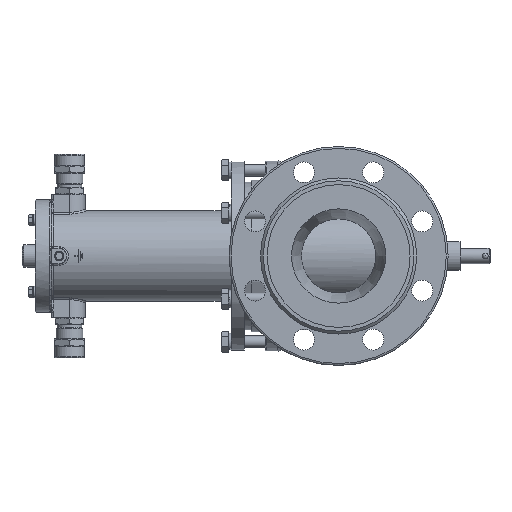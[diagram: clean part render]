
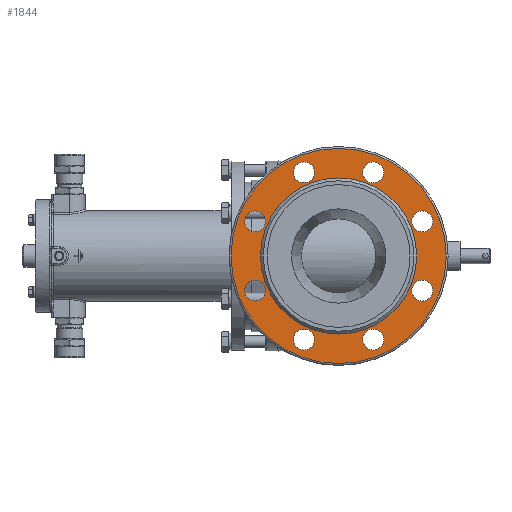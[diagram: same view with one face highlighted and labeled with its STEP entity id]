
A CAD part, left-side view. The second image highlights one B-rep face of the part: STEP entity #1844.
In plain terms, the highlighted planar face has unit normal (-1, 0, 0).
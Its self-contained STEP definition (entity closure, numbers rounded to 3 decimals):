
#1844=ADVANCED_FACE('',(#20907,#20909,#20911,#20913,#20915,#20917,#20919,#20921,
#20923,#20925),#20927,.T.);
#20907=FACE_BOUND('',#20908,.T.);
#20908=EDGE_LOOP('',(#31750));
#20909=FACE_BOUND('',#20910,.T.);
#20910=EDGE_LOOP('',(#31751));
#20911=FACE_BOUND('',#20912,.T.);
#20912=EDGE_LOOP('',(#31752));
#20913=FACE_BOUND('',#20914,.T.);
#20914=EDGE_LOOP('',(#31753));
#20915=FACE_BOUND('',#20916,.T.);
#20916=EDGE_LOOP('',(#31754));
#20917=FACE_BOUND('',#20918,.T.);
#20918=EDGE_LOOP('',(#31755));
#20919=FACE_BOUND('',#20920,.T.);
#20920=EDGE_LOOP('',(#31756));
#20921=FACE_BOUND('',#20922,.T.);
#20922=EDGE_LOOP('',(#31757));
#20923=FACE_BOUND('',#20924,.T.);
#20924=EDGE_LOOP('',(#31758));
#20925=FACE_OUTER_BOUND('',#20926,.T.);
#20926=EDGE_LOOP('',(#31759));
#20927=PLANE('',#20928);
#20928=AXIS2_PLACEMENT_3D('',#20929,#20930,#20931);
#20929=CARTESIAN_POINT('',(-151.,0.,0.));
#20930=DIRECTION('',(-1.,0.,0.));
#20931=DIRECTION('',(0.,1.,0.));
#31750=ORIENTED_EDGE('',*,*,#39316,.F.);
#31751=ORIENTED_EDGE('',*,*,#39285,.T.);
#31752=ORIENTED_EDGE('',*,*,#39283,.T.);
#31753=ORIENTED_EDGE('',*,*,#39281,.T.);
#31754=ORIENTED_EDGE('',*,*,#39279,.T.);
#31755=ORIENTED_EDGE('',*,*,#39277,.T.);
#31756=ORIENTED_EDGE('',*,*,#39275,.T.);
#31757=ORIENTED_EDGE('',*,*,#39273,.T.);
#31758=ORIENTED_EDGE('',*,*,#39271,.T.);
#31759=ORIENTED_EDGE('',*,*,#39317,.T.);
#39271=EDGE_CURVE('',#47307,#47307,#47309,.F.);
#39273=EDGE_CURVE('',#47310,#47310,#47312,.F.);
#39275=EDGE_CURVE('',#47313,#47313,#47315,.F.);
#39277=EDGE_CURVE('',#47316,#47316,#47318,.F.);
#39279=EDGE_CURVE('',#47319,#47319,#47321,.F.);
#39281=EDGE_CURVE('',#47322,#47322,#47324,.F.);
#39283=EDGE_CURVE('',#47325,#47325,#47327,.F.);
#39285=EDGE_CURVE('',#47328,#47328,#47330,.F.);
#39316=EDGE_CURVE('',#47385,#47385,#47386,.T.);
#39317=EDGE_CURVE('',#47387,#47387,#47388,.T.);
#47307=VERTEX_POINT('',#75715);
#47309=CIRCLE('',#75719,11.);
#47310=VERTEX_POINT('',#75723);
#47312=CIRCLE('',#75727,11.);
#47313=VERTEX_POINT('',#75731);
#47315=CIRCLE('',#75735,11.);
#47316=VERTEX_POINT('',#75739);
#47318=CIRCLE('',#75743,11.);
#47319=VERTEX_POINT('',#75747);
#47321=CIRCLE('',#75751,11.);
#47322=VERTEX_POINT('',#75755);
#47324=CIRCLE('',#75759,11.);
#47325=VERTEX_POINT('',#75763);
#47327=CIRCLE('',#75767,11.);
#47328=VERTEX_POINT('',#75771);
#47330=CIRCLE('',#75775,11.);
#47385=VERTEX_POINT('',#76027);
#47386=CIRCLE('',#76028,82.);
#47387=VERTEX_POINT('',#76032);
#47388=CIRCLE('',#76033,113.);
#75715=CARTESIAN_POINT('',(-151.,87.769,25.355));
#75719=AXIS2_PLACEMENT_3D('',#75720,#75721,#75722);
#75720=CARTESIAN_POINT('',(-151.,87.769,36.355));
#75721=DIRECTION('',(-1.,0.,0.));
#75722=DIRECTION('',(0.,0.,-1.));
#75723=CARTESIAN_POINT('',(-151.,87.769,-47.355));
#75727=AXIS2_PLACEMENT_3D('',#75728,#75729,#75730);
#75728=CARTESIAN_POINT('',(-151.,87.769,-36.355));
#75729=DIRECTION('',(-1.,0.,0.));
#75730=DIRECTION('',(0.,0.,-1.));
#75731=CARTESIAN_POINT('',(-151.,36.355,-98.769));
#75735=AXIS2_PLACEMENT_3D('',#75736,#75737,#75738);
#75736=CARTESIAN_POINT('',(-151.,36.355,-87.769));
#75737=DIRECTION('',(-1.,0.,0.));
#75738=DIRECTION('',(0.,0.,-1.));
#75739=CARTESIAN_POINT('',(-151.,36.355,76.769));
#75743=AXIS2_PLACEMENT_3D('',#75744,#75745,#75746);
#75744=CARTESIAN_POINT('',(-151.,36.355,87.769));
#75745=DIRECTION('',(-1.,0.,0.));
#75746=DIRECTION('',(0.,0.,-1.));
#75747=CARTESIAN_POINT('',(-151.,-87.769,25.355));
#75751=AXIS2_PLACEMENT_3D('',#75752,#75753,#75754);
#75752=CARTESIAN_POINT('',(-151.,-87.769,36.355));
#75753=DIRECTION('',(-1.,0.,0.));
#75754=DIRECTION('',(0.,0.,-1.));
#75755=CARTESIAN_POINT('',(-151.,-87.769,-47.355));
#75759=AXIS2_PLACEMENT_3D('',#75760,#75761,#75762);
#75760=CARTESIAN_POINT('',(-151.,-87.769,-36.355));
#75761=DIRECTION('',(-1.,0.,0.));
#75762=DIRECTION('',(0.,0.,-1.));
#75763=CARTESIAN_POINT('',(-151.,-36.355,-98.769));
#75767=AXIS2_PLACEMENT_3D('',#75768,#75769,#75770);
#75768=CARTESIAN_POINT('',(-151.,-36.355,-87.769));
#75769=DIRECTION('',(-1.,0.,0.));
#75770=DIRECTION('',(0.,0.,-1.));
#75771=CARTESIAN_POINT('',(-151.,-36.355,76.769));
#75775=AXIS2_PLACEMENT_3D('',#75776,#75777,#75778);
#75776=CARTESIAN_POINT('',(-151.,-36.355,87.769));
#75777=DIRECTION('',(-1.,0.,0.));
#75778=DIRECTION('',(0.,0.,-1.));
#76027=CARTESIAN_POINT('',(-151.,82.,0.));
#76028=AXIS2_PLACEMENT_3D('',#76029,#76030,#76031);
#76029=CARTESIAN_POINT('',(-151.,0.,0.));
#76030=DIRECTION('',(-1.,0.,0.));
#76031=DIRECTION('',(0.,1.,0.));
#76032=CARTESIAN_POINT('',(-151.,113.,0.));
#76033=AXIS2_PLACEMENT_3D('',#76034,#76035,#76036);
#76034=CARTESIAN_POINT('',(-151.,0.,0.));
#76035=DIRECTION('',(-1.,0.,0.));
#76036=DIRECTION('',(0.,1.,0.));
